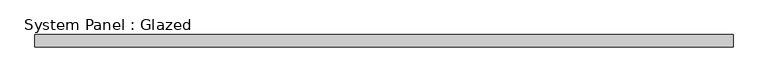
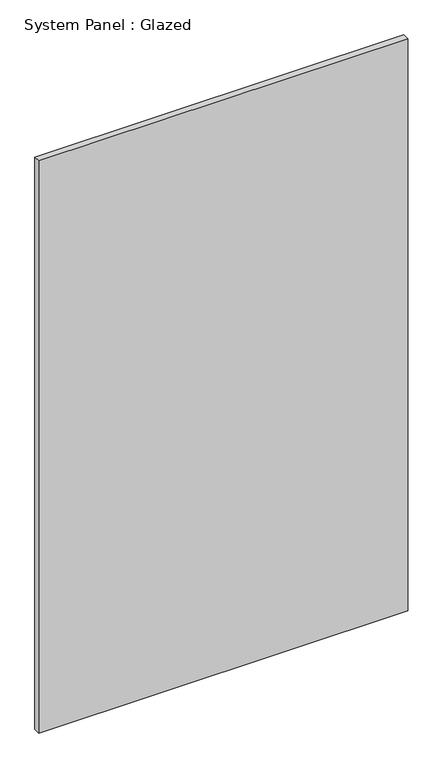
"""IFC4 building model written with IfcOpenShell, lengths in millimetres: plate geometry, System Panel : Glazed."""

from ifc_helpers import new_model, si_unit, origin, origin_with_axes, place, context, project, spatial, polyline, outline, extrude, source, transform, mapped, element, save


def system_panel_glazed_65478968(model_context):
    return source(origin(), model_context, "Body", "SweptSolid", [
        extrude(outline(polyline([(721.2366101, -49.5), (-721.2366101, -49.5), (-721.2366101, -24.5), (721.2366101, -24.5), (721.2366101, -49.5)])), origin_with_axes(), (0.0, 0.0, 1.0), 2365.0),
    ])


if __name__ == "__main__":
    model = new_model("IFC4")
    model_context = context("Model", 3, world=origin())
    ifc_project = project(units=[si_unit("LENGTHUNIT", "METRE", prefix="MILLI")], contexts=[model_context])
    site = spatial("IfcSite", under=ifc_project)
    building = spatial("IfcBuilding", under=site)
    placement = place(None, origin())
    system_panel_glazed_shape = system_panel_glazed_65478968(model_context)
    element("IfcPlate", 1, ObjectType="System Panel : Glazed", at=placement, inside=building, context=model_context, shape_type="MappedRepresentation", body=[
        mapped(system_panel_glazed_shape, transform((0.0, 0.0, 0.0), x_axis=(1.0, 0.0, 0.0), y_axis=(0.0, 1.0, 0.0), z_axis=(0.0, 0.0, 1.0))),
    ])
    save(model, "model.ifc")
